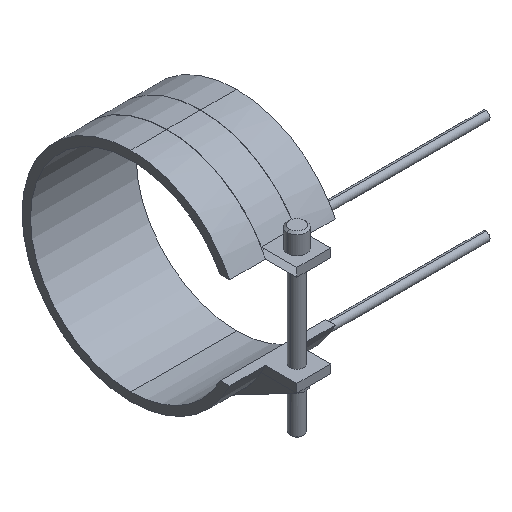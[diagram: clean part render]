
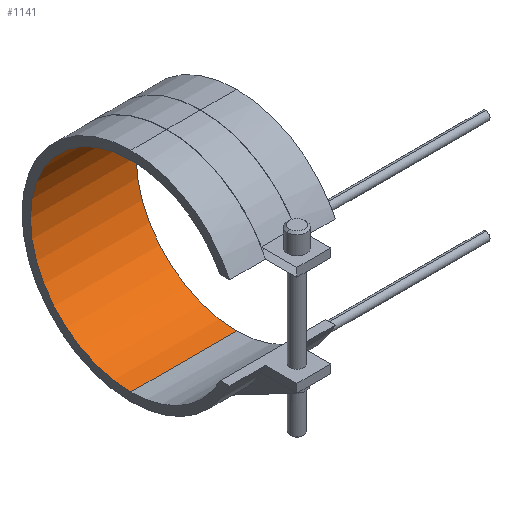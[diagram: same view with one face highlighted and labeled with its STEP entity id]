
A CAD part, isometric view. The second image highlights one B-rep face of the part: STEP entity #1141.
In plain terms, the highlighted cylindrical face has radius 47.5 mm (diameter 95 mm), a partial arc.
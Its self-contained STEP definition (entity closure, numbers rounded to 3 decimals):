
#822=CARTESIAN_POINT('Vertex',(-25.,0.,-47.5)) ;
#829=CARTESIAN_POINT('Vertex',(25.,0.,-47.5)) ;
#832=CARTESIAN_POINT('Line Origine',(25.,0.,-47.5)) ;
#850=CARTESIAN_POINT('Axis2P3D Location',(-25.,0.,0.)) ;
#854=CARTESIAN_POINT('Vertex',(-25.,0.,47.5)) ;
#911=CARTESIAN_POINT('Vertex',(25.,0.,47.5)) ;
#921=CARTESIAN_POINT('Line Origine',(25.,0.,47.5)) ;
#1012=CARTESIAN_POINT('Axis2P3D Location',(25.,0.,0.)) ;
#1130=CARTESIAN_POINT('Axis2P3D Location',(25.,0.,0.)) ;
#833=DIRECTION('Vector Direction',(1.,0.,0.)) ;
#851=DIRECTION('Axis2P3D Direction',(1.,0.,0.)) ;
#922=DIRECTION('Vector Direction',(1.,0.,0.)) ;
#1013=DIRECTION('Axis2P3D Direction',(1.,0.,0.)) ;
#1131=DIRECTION('Axis2P3D Direction',(1.,0.,-0.)) ;
#1132=DIRECTION('Axis2P3D XDirection',(0.,0.,-1.)) ;
#852=AXIS2_PLACEMENT_3D('Circle Axis2P3D',#850,#851,$) ;
#1014=AXIS2_PLACEMENT_3D('Circle Axis2P3D',#1012,#1013,$) ;
#1133=AXIS2_PLACEMENT_3D('Cylinder Axis2P3D',#1130,#1131,#1132) ;
#1136=ORIENTED_EDGE('',*,*,#1016,.T.) ;
#1137=ORIENTED_EDGE('',*,*,#925,.T.) ;
#1138=ORIENTED_EDGE('',*,*,#856,.F.) ;
#1139=ORIENTED_EDGE('',*,*,#836,.T.) ;
#834=VECTOR('Line Direction',#833,1.) ;
#923=VECTOR('Line Direction',#922,1.) ;
#1141=ADVANCED_FACE('14095050',(#1140),#1134,.F.) ;
#853=CIRCLE('generated circle',#852,47.5) ;
#1015=CIRCLE('generated circle',#1014,47.5) ;
#1134=CYLINDRICAL_SURFACE('generated cylinder',#1133,47.5) ;
#836=EDGE_CURVE('',#823,#830,#835,.T.) ;
#856=EDGE_CURVE('',#823,#855,#853,.T.) ;
#925=EDGE_CURVE('',#912,#855,#924,.F.) ;
#1016=EDGE_CURVE('',#830,#912,#1015,.T.) ;
#1135=EDGE_LOOP('',(#1136,#1137,#1138,#1139)) ;
#1140=FACE_OUTER_BOUND('',#1135,.T.) ;
#835=LINE('Line',#832,#834) ;
#924=LINE('Line',#921,#923) ;
#823=VERTEX_POINT('',#822) ;
#830=VERTEX_POINT('',#829) ;
#855=VERTEX_POINT('',#854) ;
#912=VERTEX_POINT('',#911) ;
